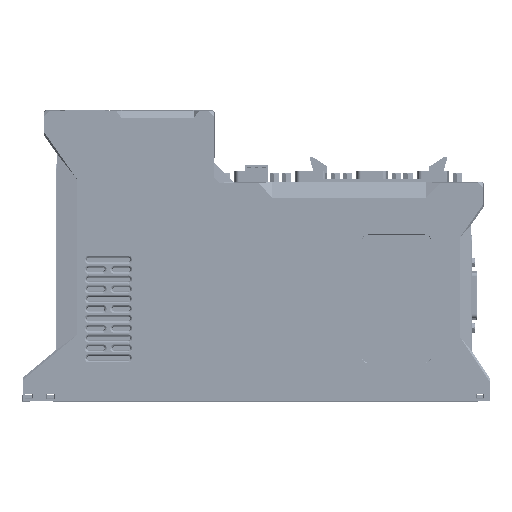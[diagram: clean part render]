
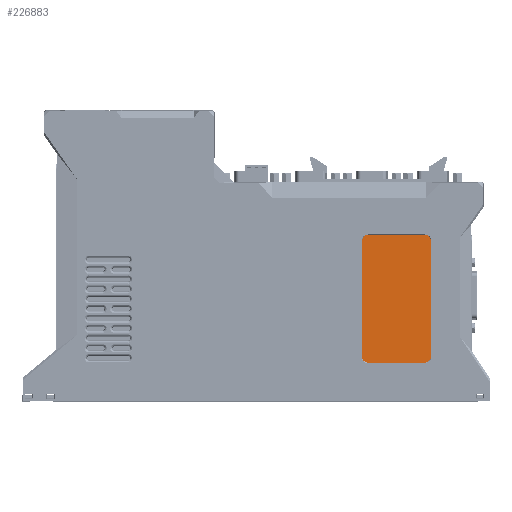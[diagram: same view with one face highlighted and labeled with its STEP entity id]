
A CAD part, left-side view. The second image highlights one B-rep face of the part: STEP entity #226883.
In plain terms, the highlighted planar face has unit normal (-1, 0, 0).
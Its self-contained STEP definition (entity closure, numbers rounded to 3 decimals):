
#1976 = DIRECTION ( 'NONE',  ( 0., -1., 0. ) ) ;
#2088 = CARTESIAN_POINT ( 'NONE',  ( 5.45, -88.326, 240.443 ) ) ;
#4000 = EDGE_CURVE ( 'NONE', #253326, #8087, #111038, .T. ) ;
#8087 = VERTEX_POINT ( 'NONE', #124884 ) ;
#9675 = AXIS2_PLACEMENT_3D ( 'NONE', #130675, #132247, #82447 ) ;
#14930 = EDGE_CURVE ( 'NONE', #111996, #120375, #160677, .T. ) ;
#16824 = CARTESIAN_POINT ( 'NONE',  ( 5.45, -56.326, 181.443 ) ) ;
#19939 = CARTESIAN_POINT ( 'NONE',  ( 5.45, -59.326, 181.443 ) ) ;
#23114 = PLANE ( 'NONE',  #91288 ) ;
#25777 = DIRECTION ( 'NONE',  ( 0., 0., 1. ) ) ;
#29242 = CARTESIAN_POINT ( 'NONE',  ( 5.45, -59.326, 178.443 ) ) ;
#32413 = ORIENTED_EDGE ( 'NONE', *, *, #84882, .T. ) ;
#36122 = DIRECTION ( 'NONE',  ( 0., 0., 1. ) ) ;
#47209 = FACE_OUTER_BOUND ( 'NONE', #113091, .T. ) ;
#50356 = DIRECTION ( 'NONE',  ( -1., 0., 0. ) ) ;
#53475 = DIRECTION ( 'NONE',  ( 0., 0., 1. ) ) ;
#54641 = AXIS2_PLACEMENT_3D ( 'NONE', #151454, #83886, #181894 ) ;
#63758 = EDGE_CURVE ( 'NONE', #120375, #253326, #196568, .T. ) ;
#64384 = ORIENTED_EDGE ( 'NONE', *, *, #63758, .T. ) ;
#68494 = AXIS2_PLACEMENT_3D ( 'NONE', #84310, #206419, #36122 ) ;
#72394 = LINE ( 'NONE', #170387, #79858 ) ;
#79858 = VECTOR ( 'NONE', #25777, 1000. ) ;
#82447 = DIRECTION ( 'NONE',  ( 0., 0., 1. ) ) ;
#83886 = DIRECTION ( 'NONE',  ( -1., 0., 0. ) ) ;
#84282 = ORIENTED_EDGE ( 'NONE', *, *, #169954, .T. ) ;
#84310 = CARTESIAN_POINT ( 'NONE',  ( 5.45, -59.326, 240.443 ) ) ;
#84788 = EDGE_CURVE ( 'NONE', #115424, #111996, #315379, .T. ) ;
#84882 = EDGE_CURVE ( 'NONE', #273546, #115424, #191050, .T. ) ;
#89700 = CARTESIAN_POINT ( 'NONE',  ( 5.45, -91.326, 181.443 ) ) ;
#91288 = AXIS2_PLACEMENT_3D ( 'NONE', #19939, #50356, #93828 ) ;
#92187 = CARTESIAN_POINT ( 'NONE',  ( 5.45, -59.326, 243.443 ) ) ;
#93828 = DIRECTION ( 'NONE',  ( 0., 0., 1. ) ) ;
#101627 = VERTEX_POINT ( 'NONE', #89700 ) ;
#107776 = CARTESIAN_POINT ( 'NONE',  ( 5.45, -56.326, 240.443 ) ) ;
#111038 = CIRCLE ( 'NONE', #54641, 3. ) ;
#111996 = VERTEX_POINT ( 'NONE', #305517 ) ;
#113091 = EDGE_LOOP ( 'NONE', ( #288252, #64384, #126972, #255209, #84282, #178481, #32413, #184017 ) ) ;
#115424 = VERTEX_POINT ( 'NONE', #317531 ) ;
#120375 = VERTEX_POINT ( 'NONE', #107776 ) ;
#124884 = CARTESIAN_POINT ( 'NONE',  ( 5.45, -59.326, 178.443 ) ) ;
#126972 = ORIENTED_EDGE ( 'NONE', *, *, #4000, .T. ) ;
#130675 = CARTESIAN_POINT ( 'NONE',  ( 5.45, -88.326, 181.443 ) ) ;
#132247 = DIRECTION ( 'NONE',  ( -1., 0., 0. ) ) ;
#138430 = CARTESIAN_POINT ( 'NONE',  ( 5.45, -91.326, 240.443 ) ) ;
#143558 = DIRECTION ( 'NONE',  ( 0., 1., 0. ) ) ;
#145203 = CARTESIAN_POINT ( 'NONE',  ( 5.45, -56.326, 181.443 ) ) ;
#151454 = CARTESIAN_POINT ( 'NONE',  ( 5.45, -59.326, 181.443 ) ) ;
#159112 = VECTOR ( 'NONE', #1976, 1000. ) ;
#159960 = EDGE_CURVE ( 'NONE', #8087, #201526, #225244, .T. ) ;
#160677 = CIRCLE ( 'NONE', #68494, 3. ) ;
#169954 = EDGE_CURVE ( 'NONE', #201526, #101627, #178867, .T. ) ;
#170387 = CARTESIAN_POINT ( 'NONE',  ( 5.45, -91.326, 181.443 ) ) ;
#178481 = ORIENTED_EDGE ( 'NONE', *, *, #197530, .T. ) ;
#178867 = CIRCLE ( 'NONE', #9675, 3. ) ;
#180139 = VECTOR ( 'NONE', #198130, 1000. ) ;
#181894 = DIRECTION ( 'NONE',  ( 0., 0., 1. ) ) ;
#184017 = ORIENTED_EDGE ( 'NONE', *, *, #84788, .T. ) ;
#191050 = CIRCLE ( 'NONE', #206625, 3. ) ;
#196519 = DIRECTION ( 'NONE',  ( -1., 0., 0. ) ) ;
#196568 = LINE ( 'NONE', #145203, #180139 ) ;
#197530 = EDGE_CURVE ( 'NONE', #101627, #273546, #72394, .T. ) ;
#198130 = DIRECTION ( 'NONE',  ( 0., 0., -1. ) ) ;
#201526 = VERTEX_POINT ( 'NONE', #297022 ) ;
#206419 = DIRECTION ( 'NONE',  ( -1., 0., 0. ) ) ;
#206625 = AXIS2_PLACEMENT_3D ( 'NONE', #2088, #196519, #53475 ) ;
#225244 = LINE ( 'NONE', #29242, #159112 ) ;
#226883 = ADVANCED_FACE ( 'NONE', ( #47209 ), #23114, .T. ) ;
#253326 = VERTEX_POINT ( 'NONE', #16824 ) ;
#255209 = ORIENTED_EDGE ( 'NONE', *, *, #159960, .T. ) ;
#262999 = VECTOR ( 'NONE', #143558, 1000. ) ;
#273546 = VERTEX_POINT ( 'NONE', #138430 ) ;
#288252 = ORIENTED_EDGE ( 'NONE', *, *, #14930, .T. ) ;
#297022 = CARTESIAN_POINT ( 'NONE',  ( 5.45, -88.326, 178.443 ) ) ;
#305517 = CARTESIAN_POINT ( 'NONE',  ( 5.45, -59.326, 243.443 ) ) ;
#315379 = LINE ( 'NONE', #92187, #262999 ) ;
#317531 = CARTESIAN_POINT ( 'NONE',  ( 5.45, -88.326, 243.443 ) ) ;
